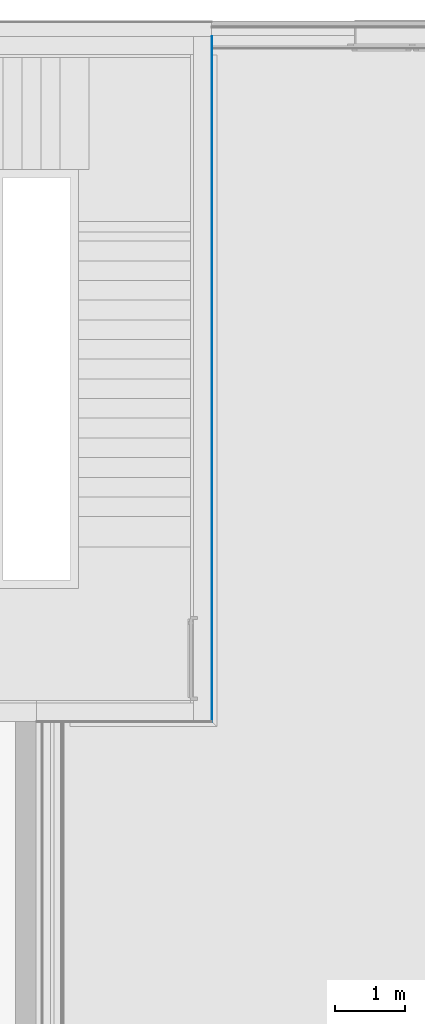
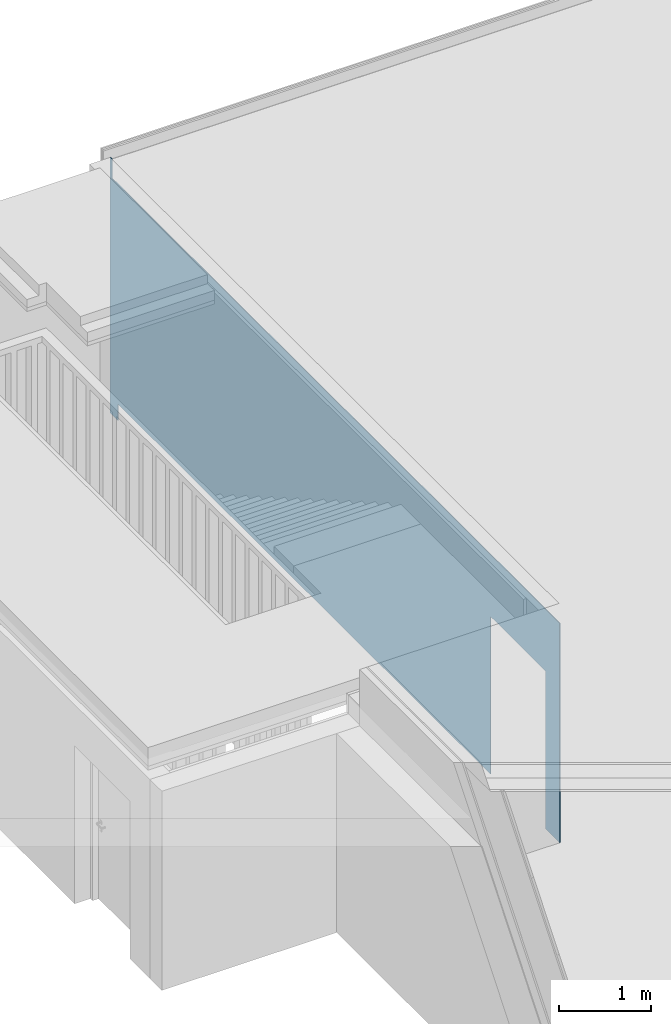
# One storey, part 16 of 20: 1 building element part, 1 opening, 1 element without a shape of its own.
"""IFC4 building model written with IfcOpenShell, lengths in millimetres."""

from ifc_helpers import new_model, entity, si_unit, converted_unit, derived_unit, direction, frame, origin_with_axes, place, context, subcontext, project, spatial, polygons, material, type_object, element, aggregate, save


model = new_model("IFC4")

# Units and contexts
model_context = context("Model", 3, precision=0.01, world=origin_with_axes(), true_north=direction((0.0, 1.0)))
body_context = subcontext(model_context, "Body", "Model", "MODEL_VIEW")
ifc_project = project(units=[si_unit("LENGTHUNIT", "METRE", prefix="MILLI"), si_unit("AREAUNIT", "SQUARE_METRE"), si_unit("VOLUMEUNIT", "CUBIC_METRE"), converted_unit("PLANEANGLEUNIT", "DEGREE", entity("IfcPlaneAngleMeasure", 0.0174532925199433), si_unit("PLANEANGLEUNIT", "RADIAN"), dimensions=[0, 0, 0, 0, 0, 0, 0]), converted_unit("TIMEUNIT", "Year", entity("IfcTimeMeasure", 31557600.0), si_unit("TIMEUNIT", "SECOND"), dimensions=[0, 0, 1, 0, 0, 0, 0]), si_unit("MASSUNIT", "GRAM", prefix="KILO"), si_unit("THERMODYNAMICTEMPERATUREUNIT", "DEGREE_CELSIUS"), si_unit("LUMINOUSINTENSITYUNIT", "LUMEN"), si_unit("ENERGYUNIT", "JOULE", prefix="MEGA"), derived_unit("THERMALCONDUCTANCEUNIT", [(si_unit("POWERUNIT", "WATT"), 1), (si_unit("LENGTHUNIT", "METRE"), -1), (si_unit("THERMODYNAMICTEMPERATUREUNIT", "KELVIN"), -1)]), derived_unit("SPECIFICHEATCAPACITYUNIT", [(si_unit("ENERGYUNIT", "JOULE"), 1), (si_unit("MASSUNIT", "GRAM", prefix="KILO"), -1), (si_unit("THERMODYNAMICTEMPERATUREUNIT", "KELVIN"), -1)]), derived_unit("MASSDENSITYUNIT", [(si_unit("MASSUNIT", "GRAM", prefix="KILO"), 1), (si_unit("VOLUMEUNIT", "CUBIC_METRE"), -1)])], contexts=[model_context])

# Site, building, storey
site_placement = place(None, origin_with_axes())
site = spatial("IfcSite", under=ifc_project, at=site_placement, Name="Gelände", CompositionType="ELEMENT")
building_placement = place(site_placement, origin_with_axes())
building = spatial("IfcBuilding", under=site, at=building_placement, Name="Gebäude", CompositionType="ELEMENT")
storey_placement = place(building_placement, frame((0.0, 0.0, 5.198845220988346e-05), z_axis=(0.0, 0.0, 1.0), x_axis=(1.0, 0.0, 0.0)))
storey = spatial("IfcBuildingStorey", under=building, at=storey_placement, Name="EG", CompositionType="ELEMENT", Elevation=0.0)

# Wall, opening, building element part
wall_type = type_object("IfcWallType", Name="Innenwand Typ 10 310", PredefinedType="NOTDEFINED")
wall_placement = place(storey_placement, frame((20128.99744477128, 28247.59728131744, 0.0), z_axis=(0.0, 0.0, 1.0), x_axis=(0.0, 1.0, 0.0)))
wall = element("IfcWall", 1, at=wall_placement, inside=storey, type_object=wall_type, Name="Wand-014", PredefinedType="NOTDEFINED")
opening_placement = place(wall_placement, frame((599.9999999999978, 0.0, 220.0), z_axis=(0.0, 0.0, 1.0), x_axis=(1.0, 0.0, 0.0)))
element("IfcOpeningElement", 2, at=opening_placement, cuts=wall, Name="Tür-010", context=body_context, identifier="Reference", shape_type="Tessellation", body=[
    polygons([(-600.0000000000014, -310.9999999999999, 2100.0), (-600.0000000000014, -310.9999999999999, -220.0), (600.0000000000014, -310.9999999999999, -220.0), (600.0000000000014, -310.9999999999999, 2100.0), (-600.0000000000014, 1.000000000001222, 2100.0), (-600.0000000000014, 1.000000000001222, -220.0), (600.0000000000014, 1.000000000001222, -220.0), (600.0000000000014, 1.000000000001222, 2100.0)], [[[1, 2, 3, 4]], [[5, 6, 2, 1]], [[6, 7, 3, 2]], [[7, 8, 4, 3]], [[8, 5, 1, 4]], [[7, 6, 5, 8]]], closed=True),
])
ifc_material = material(Name="Kalkzementputz Aussen")
building_element_part_placement = place(wall_placement, origin_with_axes())
building_element_part = element("IfcBuildingElementPart", 3, at=building_element_part_placement, material=ifc_material, Name="Kalkzementputz Aussen", PredefinedType="NOTDEFINED", context=body_context, shape_type="Tessellation", body=[
    polygons([(0.0, -309.9999999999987, 219.999948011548), (0.0, -309.9999999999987, 2320.0), (1199.999999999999, -309.9999999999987, 2320.0), (1199.999999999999, -309.9999999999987, 219.999948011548), (9320.999999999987, -309.9999999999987, 219.9999480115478), (9320.999999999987, -309.9999999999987, -5.198845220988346e-05), (9489.999999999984, -309.9999999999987, 0.0), (9489.999999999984, -309.9999999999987, 3399.999948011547), (9450.999999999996, -309.9999999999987, 3399.999948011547), (9450.999999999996, -309.9999999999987, 3143.999948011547), (-309.9999999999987, -309.9999999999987, 3143.999948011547), (-309.9999999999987, -309.9999999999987, 219.999948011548), (0.0, -299.9999999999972, 219.9999480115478), (0.0, -299.9999999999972, 2320.0), (1199.999999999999, -299.9999999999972, 2320.0), (1199.999999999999, -300.0000000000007, 219.9999480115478), (9320.999999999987, -300.0000000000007, 219.9999480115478), (9320.999999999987, -300.0000000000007, -5.198845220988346e-05), (9489.999999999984, -300.0000000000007, 0.0), (9489.999999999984, -300.0000000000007, 3399.999948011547), (9450.999999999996, -300.0000000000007, 3399.999948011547), (9450.999999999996, -300.0000000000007, 3143.999948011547), (-300.0000000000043, -300.0000000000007, 3143.999948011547), (-309.9999999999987, -300.0000000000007, 3143.999948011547), (-309.9999999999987, -300.0000000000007, 219.9999480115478), (-299.9999999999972, -300.0000000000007, 219.9999480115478)], [[[1, 2, 3, 4, 5, 6, 7, 8, 9, 10, 11, 12]], [[2, 1, 13, 14]], [[3, 2, 14, 15]], [[4, 3, 15, 16]], [[4, 16, 17, 5]], [[5, 17, 18, 6]], [[6, 18, 19, 7]], [[19, 20, 8, 7]], [[21, 9, 8, 20]], [[21, 22, 10, 9]], [[10, 22, 23, 24, 11]], [[25, 12, 11, 24]], [[13, 1, 12, 25, 26]], [[14, 13, 26, 25, 24, 23, 22, 21, 20, 19, 18, 17, 16, 15]]], closed=True),
])
aggregate(wall, [building_element_part])

save(model, "model.ifc")
